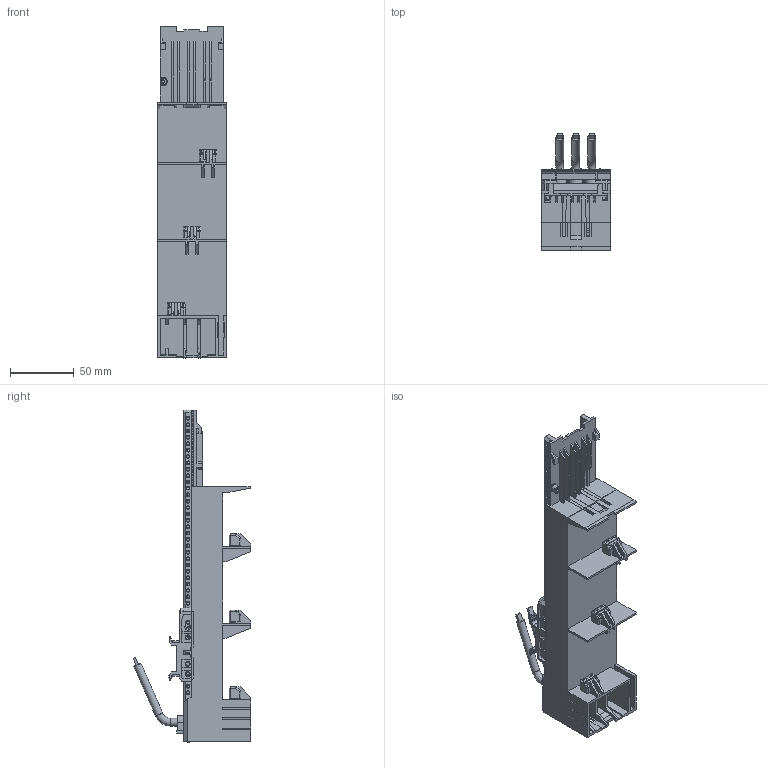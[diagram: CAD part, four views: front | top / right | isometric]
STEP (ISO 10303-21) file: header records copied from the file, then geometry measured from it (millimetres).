
FILE_DESCRIPTION (( 'STEP AP203' ), '1' );
FILE_NAME ('55366.STEP', '2021-08-18T06:42:53', ( '' ), ( '' ), 'SwSTEP 2.0', 'SolidWorks 2017', '' );
FILE_SCHEMA (( 'CONFIG_CONTROL_DESIGN' ));
Length unit declared in the file: millimetre
Products named in the file (2): 55366
Bounding box: 54.05 x 92.2 x 260.2 mm (x, y, z)
Surface area: 96554.3 mm2 (no closed solid volume)
Topology: 0 solids, 26 shells, 2187 faces, 5976 edges, 4000 vertices
Faces by surface type: plane 1502, cylinder 398, cone 214, bspline 54, sphere 14, torus 5
Full cylindrical faces by diameter (mm): 1.988 x176, 2.584 x1, 2.982 x6, 3.479 x4, 4.2 x2, 5.169 x2, 5.964 x7, 6 x6
Entity records: 89186 total; most frequent: CARTESIAN_POINT 37968, ORIENTED_EDGE 10940, DIRECTION 8981, EDGE_CURVE 5474, VERTEX_POINT 3893, VECTOR 3429, LINE 3429, EDGE_LOOP 2861
